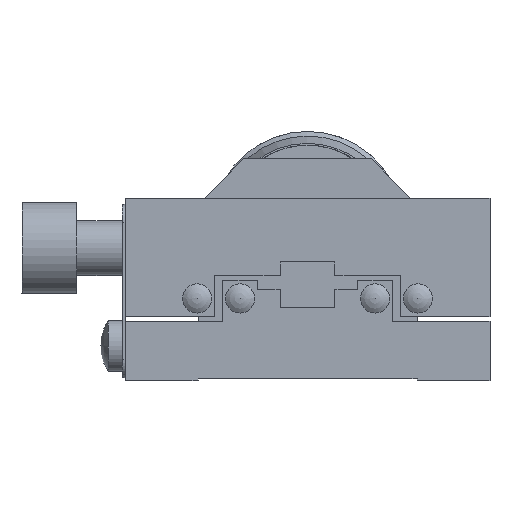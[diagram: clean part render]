
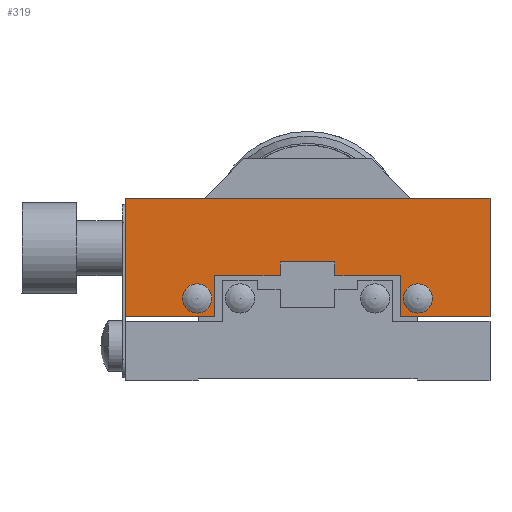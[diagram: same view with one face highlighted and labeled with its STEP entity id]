
A CAD part, left-side view. The second image highlights one B-rep face of the part: STEP entity #319.
In plain terms, the highlighted planar face has unit normal (-1, 0, 0).
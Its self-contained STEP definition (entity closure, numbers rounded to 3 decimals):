
#319 = ADVANCED_FACE( '', ( #751, #752, #753 ), #754, .T. );
#751 = FACE_OUTER_BOUND( '', #1336, .T. );
#752 = FACE_BOUND( '', #1337, .T. );
#753 = FACE_BOUND( '', #1338, .T. );
#754 = PLANE( '', #1339 );
#1336 = EDGE_LOOP( '', ( #2151, #2152, #2153, #2154, #2155, #2156, #2157, #2158, #2159, #2160, #2161, #2162 ) );
#1337 = EDGE_LOOP( '', ( #2163 ) );
#1338 = EDGE_LOOP( '', ( #2164 ) );
#1339 = AXIS2_PLACEMENT_3D( '', #2165, #2166, #2167 );
#2151 = ORIENTED_EDGE( '', *, *, #3104, .T. );
#2152 = ORIENTED_EDGE( '', *, *, #3096, .F. );
#2153 = ORIENTED_EDGE( '', *, *, #3105, .T. );
#2154 = ORIENTED_EDGE( '', *, *, #3106, .T. );
#2155 = ORIENTED_EDGE( '', *, *, #2910, .T. );
#2156 = ORIENTED_EDGE( '', *, *, #2928, .T. );
#2157 = ORIENTED_EDGE( '', *, *, #3107, .T. );
#2158 = ORIENTED_EDGE( '', *, *, #3108, .F. );
#2159 = ORIENTED_EDGE( '', *, *, #3072, .T. );
#2160 = ORIENTED_EDGE( '', *, *, #2985, .T. );
#2161 = ORIENTED_EDGE( '', *, *, #3109, .T. );
#2162 = ORIENTED_EDGE( '', *, *, #3110, .F. );
#2163 = ORIENTED_EDGE( '', *, *, #3111, .T. );
#2164 = ORIENTED_EDGE( '', *, *, #3075, .F. );
#2165 = CARTESIAN_POINT( '', ( -20., 0., 7. ) );
#2166 = DIRECTION( '', ( -1., 0., 0. ) );
#2167 = DIRECTION( '', ( 0., 1., 0. ) );
#2910 = EDGE_CURVE( '', #3387, #3385, #3388, .T. );
#2928 = EDGE_CURVE( '', #3385, #3416, #3418, .T. );
#2985 = EDGE_CURVE( '', #3509, #3514, #3516, .T. );
#3072 = EDGE_CURVE( '', #3660, #3509, #3661, .T. );
#3075 = EDGE_CURVE( '', #3664, #3664, #3665, .T. );
#3096 = EDGE_CURVE( '', #3694, #3695, #3696, .T. );
#3104 = EDGE_CURVE( '', #3706, #3695, #3707, .T. );
#3105 = EDGE_CURVE( '', #3694, #3708, #3709, .T. );
#3106 = EDGE_CURVE( '', #3708, #3387, #3710, .T. );
#3107 = EDGE_CURVE( '', #3416, #3711, #3712, .T. );
#3108 = EDGE_CURVE( '', #3660, #3711, #3713, .T. );
#3109 = EDGE_CURVE( '', #3514, #3714, #3715, .T. );
#3110 = EDGE_CURVE( '', #3706, #3714, #3716, .T. );
#3111 = EDGE_CURVE( '', #3717, #3717, #3718, .T. );
#3385 = VERTEX_POINT( '', #4044 );
#3387 = VERTEX_POINT( '', #4047 );
#3388 = LINE( '', #4048, #4049 );
#3416 = VERTEX_POINT( '', #4085 );
#3418 = LINE( '', #4088, #4089 );
#3509 = VERTEX_POINT( '', #4202 );
#3514 = VERTEX_POINT( '', #4209 );
#3516 = LINE( '', #4212, #4213 );
#3660 = VERTEX_POINT( '', #4408 );
#3661 = LINE( '', #4409, #4410 );
#3664 = VERTEX_POINT( '', #4414 );
#3665 = CIRCLE( '', #4415, 1.6 );
#3694 = VERTEX_POINT( '', #4452 );
#3695 = VERTEX_POINT( '', #4453 );
#3696 = LINE( '', #4454, #4455 );
#3706 = VERTEX_POINT( '', #4470 );
#3707 = LINE( '', #4471, #4472 );
#3708 = VERTEX_POINT( '', #4473 );
#3709 = LINE( '', #4474, #4475 );
#3710 = LINE( '', #4476, #4477 );
#3711 = VERTEX_POINT( '', #4478 );
#3712 = LINE( '', #4479, #4480 );
#3713 = LINE( '', #4481, #4482 );
#3714 = VERTEX_POINT( '', #4483 );
#3715 = LINE( '', #4484, #4485 );
#3716 = LINE( '', #4486, #4487 );
#3717 = VERTEX_POINT( '', #4488 );
#3718 = CIRCLE( '', #4489, 1.6 );
#4044 = CARTESIAN_POINT( '', ( -20., -3., 13. ) );
#4047 = CARTESIAN_POINT( '', ( -20., 3., 13. ) );
#4048 = CARTESIAN_POINT( '', ( -20., 0., 13. ) );
#4049 = VECTOR( '', #4850, 1000. );
#4085 = CARTESIAN_POINT( '', ( -20., -3., 11.5 ) );
#4088 = CARTESIAN_POINT( '', ( -20., -3., 7. ) );
#4089 = VECTOR( '', #4872, 1000. );
#4202 = CARTESIAN_POINT( '', ( -20., -20., 7. ) );
#4209 = CARTESIAN_POINT( '', ( -20., -20., 20. ) );
#4212 = CARTESIAN_POINT( '', ( -20., -20., 7. ) );
#4213 = VECTOR( '', #4952, 1000. );
#4408 = CARTESIAN_POINT( '', ( -20., -10.2, 7. ) );
#4409 = CARTESIAN_POINT( '', ( -20., 0., 7. ) );
#4410 = VECTOR( '', #5055, 1000. );
#4414 = CARTESIAN_POINT( '', ( -20., -12.1, 7.4 ) );
#4415 = AXIS2_PLACEMENT_3D( '', #5057, #5058, #5059 );
#4452 = CARTESIAN_POINT( '', ( -20., 10.2, 11.5 ) );
#4453 = CARTESIAN_POINT( '', ( -20., 10.2, 7. ) );
#4454 = CARTESIAN_POINT( '', ( -20., 10.2, 11. ) );
#4455 = VECTOR( '', #5080, 1000. );
#4470 = CARTESIAN_POINT( '', ( -20., 20., 7. ) );
#4471 = CARTESIAN_POINT( '', ( -20., 0., 7. ) );
#4472 = VECTOR( '', #5086, 1000. );
#4473 = CARTESIAN_POINT( '', ( -20., 3., 11.5 ) );
#4474 = CARTESIAN_POINT( '', ( -20., 0., 11.5 ) );
#4475 = VECTOR( '', #5087, 1000. );
#4476 = CARTESIAN_POINT( '', ( -20., 3., 7. ) );
#4477 = VECTOR( '', #5088, 1000. );
#4478 = CARTESIAN_POINT( '', ( -20., -10.2, 11.5 ) );
#4479 = CARTESIAN_POINT( '', ( -20., 0., 11.5 ) );
#4480 = VECTOR( '', #5089, 1000. );
#4481 = CARTESIAN_POINT( '', ( -20., -10.2, 11. ) );
#4482 = VECTOR( '', #5090, 1000. );
#4483 = CARTESIAN_POINT( '', ( -20., 20., 20. ) );
#4484 = CARTESIAN_POINT( '', ( -20., 0., 20. ) );
#4485 = VECTOR( '', #5091, 1000. );
#4486 = CARTESIAN_POINT( '', ( -20., 20., 7. ) );
#4487 = VECTOR( '', #5092, 1000. );
#4488 = CARTESIAN_POINT( '', ( -20., 12.1, 7.4 ) );
#4489 = AXIS2_PLACEMENT_3D( '', #5093, #5094, #5095 );
#4850 = DIRECTION( '', ( 0., -1., 0. ) );
#4872 = DIRECTION( '', ( 0., 0., -1. ) );
#4952 = DIRECTION( '', ( 0., 0., 1. ) );
#5055 = DIRECTION( '', ( 0., -1., 0. ) );
#5057 = CARTESIAN_POINT( '', ( -20., -12.1, 9. ) );
#5058 = DIRECTION( '', ( -1., 0., 0. ) );
#5059 = DIRECTION( '', ( 0., 0., -1. ) );
#5080 = DIRECTION( '', ( 0., 0., -1. ) );
#5086 = DIRECTION( '', ( 0., -1., 0. ) );
#5087 = DIRECTION( '', ( 0., -1., 0. ) );
#5088 = DIRECTION( '', ( 0., 0., 1. ) );
#5089 = DIRECTION( '', ( 0., -1., 0. ) );
#5090 = DIRECTION( '', ( 0., 0., 1. ) );
#5091 = DIRECTION( '', ( 0., 1., 0. ) );
#5092 = DIRECTION( '', ( 0., 0., 1. ) );
#5093 = CARTESIAN_POINT( '', ( -20., 12.1, 9. ) );
#5094 = DIRECTION( '', ( 1., 0., 0. ) );
#5095 = DIRECTION( '', ( 0., 0., -1. ) );
